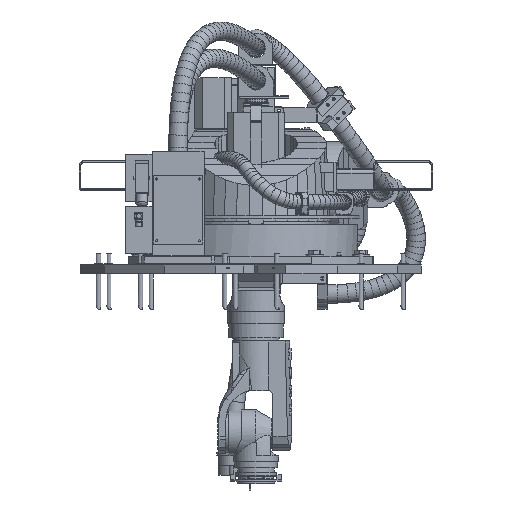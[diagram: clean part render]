
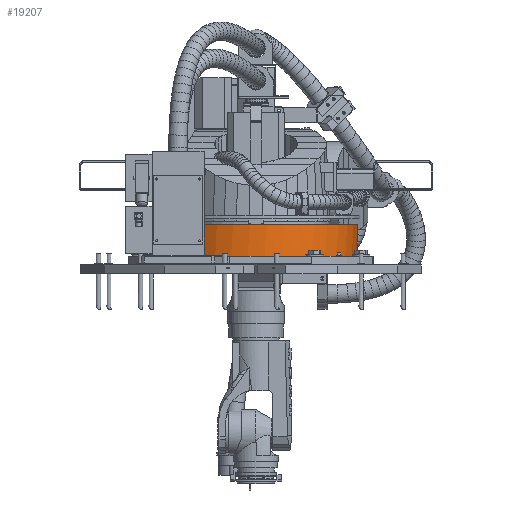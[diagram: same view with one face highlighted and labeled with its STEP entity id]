
A CAD part, left-side view. The second image highlights one B-rep face of the part: STEP entity #19207.
In plain terms, the highlighted cylindrical face has radius 341.5 mm (diameter 683 mm), a full revolution.
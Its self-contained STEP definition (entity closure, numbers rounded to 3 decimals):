
#3171=CYLINDRICAL_SURFACE('',#65653,341.5);
#4794=CIRCLE('',#65639,341.5);
#4796=CIRCLE('',#65645,341.5);
#4797=CIRCLE('',#65648,341.5);
#4798=CIRCLE('',#65649,341.5);
#4799=CIRCLE('',#65650,341.5);
#4800=CIRCLE('',#65651,341.5);
#4801=CIRCLE('',#65652,341.5);
#19207=ADVANCED_FACE('',(#24002,#24003),#3171,.T.);
#24002=FACE_BOUND('',#27969,.T.);
#24003=FACE_BOUND('',#27970,.T.);
#27969=EDGE_LOOP('',(#38549));
#27970=EDGE_LOOP('',(#38550,#38551,#38552,#38553,#38554,#38555,#38556,#38557,
#38558,#38559,#38560,#38561));
#38549=ORIENTED_EDGE('',*,*,#52156,.F.);
#38550=ORIENTED_EDGE('',*,*,#52136,.T.);
#38551=ORIENTED_EDGE('',*,*,#52157,.T.);
#38552=ORIENTED_EDGE('',*,*,#52134,.F.);
#38553=ORIENTED_EDGE('',*,*,#52158,.T.);
#38554=ORIENTED_EDGE('',*,*,#52128,.T.);
#38555=ORIENTED_EDGE('',*,*,#52159,.T.);
#38556=ORIENTED_EDGE('',*,*,#52153,.F.);
#38557=ORIENTED_EDGE('',*,*,#52151,.T.);
#38558=ORIENTED_EDGE('',*,*,#52148,.T.);
#38559=ORIENTED_EDGE('',*,*,#52160,.T.);
#38560=ORIENTED_EDGE('',*,*,#52141,.F.);
#38561=ORIENTED_EDGE('',*,*,#52139,.T.);
#46114=VERTEX_POINT('',#93328);
#46116=VERTEX_POINT('',#93331);
#46117=VERTEX_POINT('',#93336);
#46119=VERTEX_POINT('',#93340);
#46120=VERTEX_POINT('',#93344);
#46122=VERTEX_POINT('',#93347);
#46123=VERTEX_POINT('',#93352);
#46124=VERTEX_POINT('',#93356);
#46128=VERTEX_POINT('',#93368);
#46130=VERTEX_POINT('',#93371);
#46131=VERTEX_POINT('',#93376);
#46132=VERTEX_POINT('',#93380);
#46134=VERTEX_POINT('',#93386);
#52128=EDGE_CURVE('',#46116,#46114,#57258,.T.);
#52134=EDGE_CURVE('',#46119,#46117,#57264,.T.);
#52136=EDGE_CURVE('',#46122,#46120,#57266,.T.);
#52139=EDGE_CURVE('',#46123,#46122,#4794,.T.);
#52141=EDGE_CURVE('',#46123,#46124,#57270,.T.);
#52148=EDGE_CURVE('',#46130,#46128,#57276,.T.);
#52151=EDGE_CURVE('',#46131,#46130,#4796,.T.);
#52153=EDGE_CURVE('',#46131,#46132,#57280,.T.);
#52156=EDGE_CURVE('',#46134,#46134,#4797,.T.);
#52157=EDGE_CURVE('',#46120,#46117,#4798,.T.);
#52158=EDGE_CURVE('',#46119,#46116,#4799,.T.);
#52159=EDGE_CURVE('',#46114,#46132,#4800,.T.);
#52160=EDGE_CURVE('',#46128,#46124,#4801,.T.);
#57258=LINE('',#93330,#61223);
#57264=LINE('',#93341,#61229);
#57266=LINE('',#93346,#61231);
#57270=LINE('',#93355,#61235);
#57276=LINE('',#93370,#61241);
#57280=LINE('',#93379,#61245);
#61223=VECTOR('',#77452,1.);
#61229=VECTOR('',#77460,1.);
#61231=VECTOR('',#77464,1.);
#61235=VECTOR('',#77474,1.);
#61241=VECTOR('',#77486,1.);
#61245=VECTOR('',#77496,1.);
#65639=AXIS2_PLACEMENT_3D('',#93351,#77469,#77470);
#65645=AXIS2_PLACEMENT_3D('',#93375,#77491,#77492);
#65648=AXIS2_PLACEMENT_3D('',#93385,#77501,#77502);
#65649=AXIS2_PLACEMENT_3D('',#93387,#77503,#77504);
#65650=AXIS2_PLACEMENT_3D('',#93388,#77505,#77506);
#65651=AXIS2_PLACEMENT_3D('',#93389,#77507,#77508);
#65652=AXIS2_PLACEMENT_3D('',#93390,#77509,#77510);
#65653=AXIS2_PLACEMENT_3D('',#93391,#77511,#77512);
#77452=DIRECTION('',(0.,0.,-1.));
#77460=DIRECTION('',(0.,0.,-1.));
#77464=DIRECTION('',(0.,0.,-1.));
#77469=DIRECTION('',(0.,0.,1.));
#77470=DIRECTION('',(1.,0.,0.));
#77474=DIRECTION('',(0.,0.,-1.));
#77486=DIRECTION('',(0.,0.,-1.));
#77491=DIRECTION('',(0.,0.,1.));
#77492=DIRECTION('',(1.,0.,0.));
#77496=DIRECTION('',(0.,0.,-1.));
#77501=DIRECTION('',(0.,0.,1.));
#77502=DIRECTION('',(1.,0.,0.));
#77503=DIRECTION('',(0.,0.,1.));
#77504=DIRECTION('',(1.,0.,0.));
#77505=DIRECTION('',(0.,0.,1.));
#77506=DIRECTION('',(1.,0.,0.));
#77507=DIRECTION('',(0.,0.,1.));
#77508=DIRECTION('',(1.,0.,0.));
#77509=DIRECTION('',(0.,0.,1.));
#77510=DIRECTION('',(1.,0.,0.));
#77511=DIRECTION('',(0.,0.,-1.));
#77512=DIRECTION('',(-1.,0.,0.));
#93328=CARTESIAN_POINT('',(-110.87,-323.002,3.));
#93330=CARTESIAN_POINT('',(-110.87,-323.002,132.));
#93331=CARTESIAN_POINT('',(-110.87,-323.002,27.));
#93336=CARTESIAN_POINT('',(-110.87,323.002,3.));
#93340=CARTESIAN_POINT('',(-110.87,323.002,27.));
#93341=CARTESIAN_POINT('',(-110.87,323.002,132.));
#93344=CARTESIAN_POINT('',(110.87,323.002,3.));
#93346=CARTESIAN_POINT('',(110.87,323.002,132.));
#93347=CARTESIAN_POINT('',(110.87,323.002,27.));
#93351=CARTESIAN_POINT('',(0.,0.,27.));
#93352=CARTESIAN_POINT('',(323.002,110.87,27.));
#93355=CARTESIAN_POINT('',(323.002,110.87,132.));
#93356=CARTESIAN_POINT('',(323.002,110.87,3.));
#93368=CARTESIAN_POINT('',(323.002,-110.87,3.));
#93370=CARTESIAN_POINT('',(323.002,-110.87,132.));
#93371=CARTESIAN_POINT('',(323.002,-110.87,27.));
#93375=CARTESIAN_POINT('',(0.,0.,27.));
#93376=CARTESIAN_POINT('',(110.87,-323.002,27.));
#93379=CARTESIAN_POINT('',(110.87,-323.002,132.));
#93380=CARTESIAN_POINT('',(110.87,-323.002,3.));
#93385=CARTESIAN_POINT('',(0.,0.,132.));
#93386=CARTESIAN_POINT('',(341.5,0.,132.));
#93387=CARTESIAN_POINT('',(0.,0.,3.));
#93388=CARTESIAN_POINT('',(0.,0.,27.));
#93389=CARTESIAN_POINT('',(0.,0.,3.));
#93390=CARTESIAN_POINT('',(0.,0.,3.));
#93391=CARTESIAN_POINT('',(0.,0.,132.));
